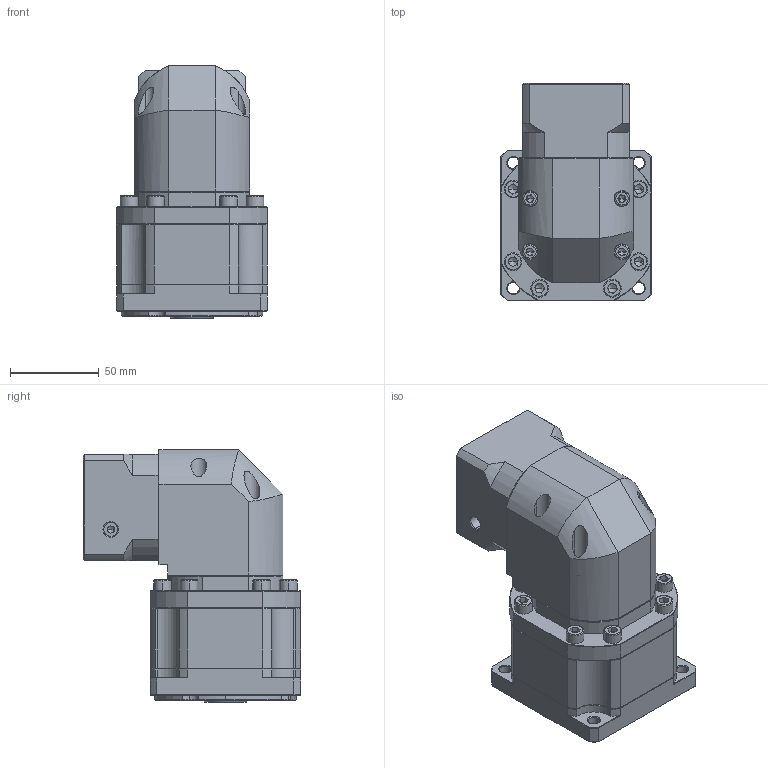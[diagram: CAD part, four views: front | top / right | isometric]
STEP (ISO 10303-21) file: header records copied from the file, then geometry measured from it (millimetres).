
FILE_DESCRIPTION (( 'STEP AP214' ), '1' );
FILE_NAME ('ZBR090-K15-L2-P2-14-50-70-M4.step', '2023-08-19T04:01:15', ( '' ), ( '' ), 'SwSTEP 2.0', 'SolidWorks 2016', '' );
FILE_SCHEMA (( 'AUTOMOTIVE_DESIGN' ));
Length unit declared in the file: millimetre
Products named in the file (1): ZBR090-K15-L2-P2-14-50-70-M4
Bounding box: 85 x 122.7 x 142.5 mm (x, y, z)
Volume: 782242.7 mm3; surface area: 97685.8 mm2
Topology: 5 solids, 5 shells, 2380 faces, 6309 edges, 4030 vertices
Faces by surface type: plane 1171, bspline 428, cylinder 410, cone 363, torus 8
Entity records: 121324 total; most frequent: CARTESIAN_POINT 39318, ORIENTED_EDGE 12530, DIRECTION 10086, EDGE_CURVE 6265, VERTEX_POINT 4030, LINE 3970, VECTOR 3970, AXIS2_PLACEMENT_3D 3058
